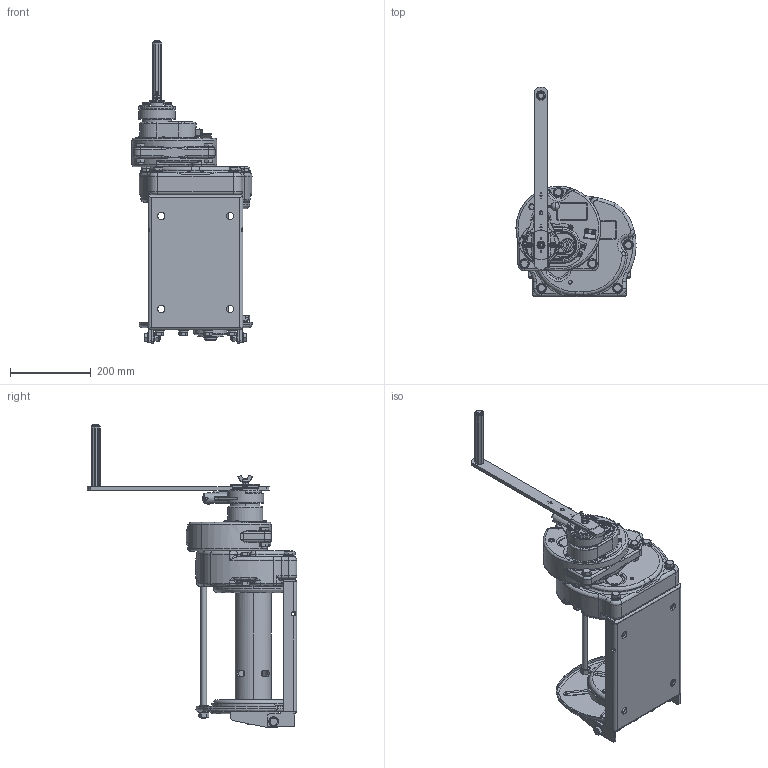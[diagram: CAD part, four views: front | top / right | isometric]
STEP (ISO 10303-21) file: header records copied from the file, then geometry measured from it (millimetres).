
FILE_DESCRIPTION( (''), '2;1');
FILE_NAME ('MR-30.stp','2023-12-22T17:19:29',(''),(''),'spGate 19.8.2 (****-****-****-****)','','');
FILE_SCHEMA (('AUTOMOTIVE_DESIGN'));
Length unit declared in the file: millimetre
Products named in the file (3): Assembly; MR-30-prt0; MR-30-prt1
Assembly tree (2 placements, depth 2):
  Assembly
    MR-30-prt0
    MR-30-prt1
Bounding box: 297.46 x 518.43 x 749.3 mm (x, y, z)
Volume: 10854796.3 mm3; surface area: 1176495.1 mm2
Topology: 2 solids, 2 shells, 3635 faces, 9351 edges, 5860 vertices
Faces by surface type: plane 1793, cylinder 1090, bspline 625, sphere 127
Entity records: 199423 total; most frequent: CARTESIAN_POINT 39540, ORIENTED_EDGE 18486, DIRECTION 17738, COLOUR_RGB 12880, PRESENTATION_STYLE_ASSIGNMENT 12880, STYLED_ITEM 12880, EDGE_CURVE 9243, DRAUGHTING_PRE_DEFINED_CURVE_FONT 9243
